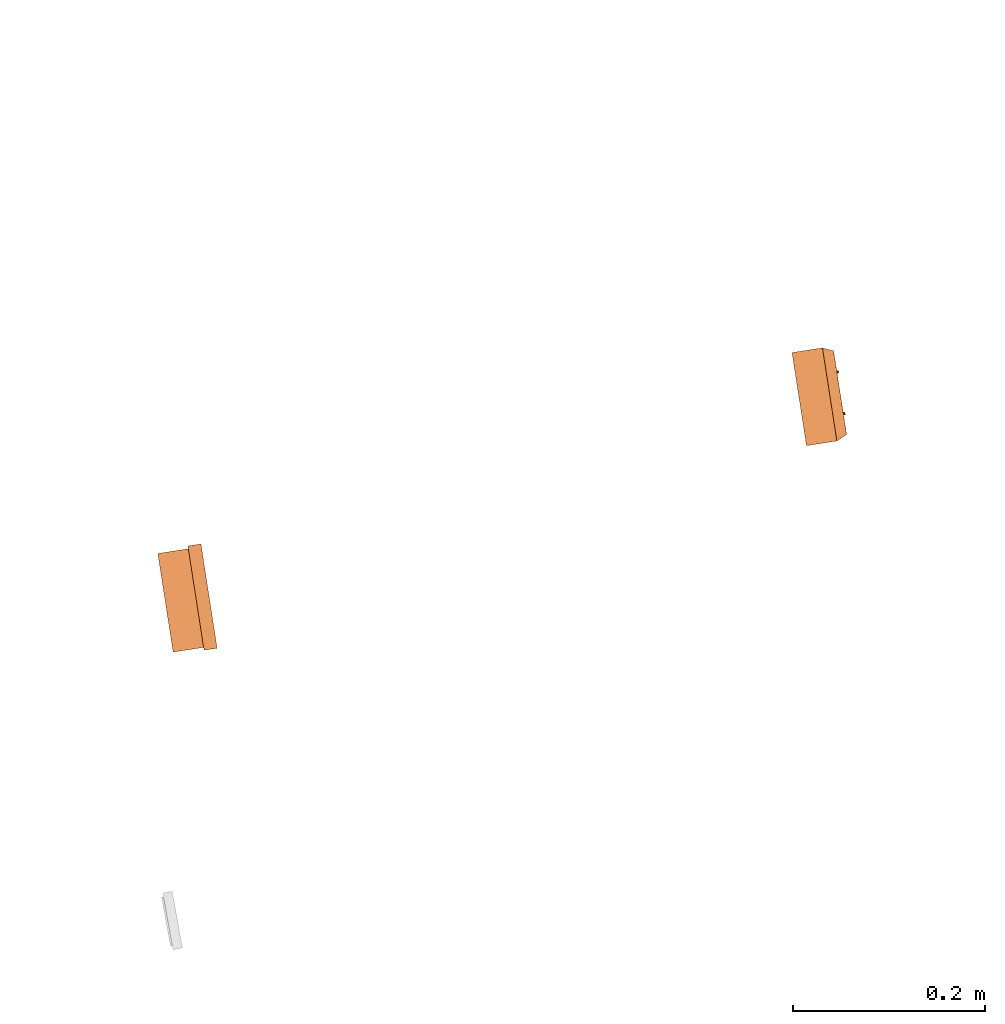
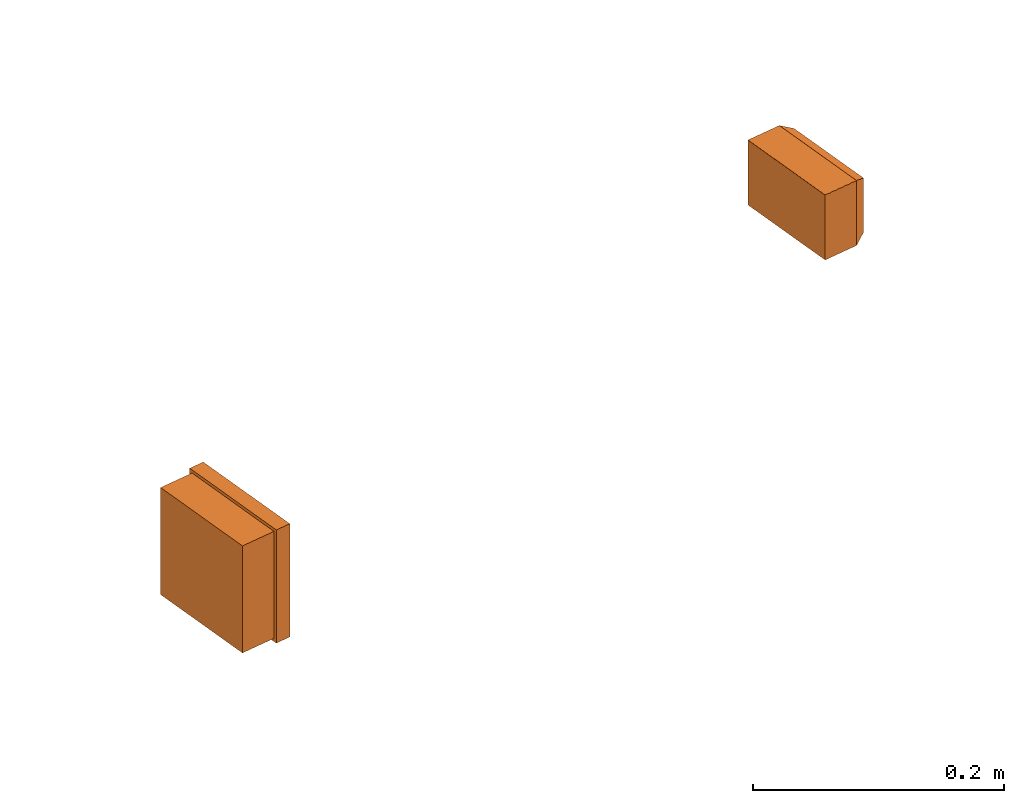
# One storey, part 24 of 33: 2 proxies.
"""IFC2X3 building model written with IfcOpenShell, lengths in millimetres."""

from ifc_helpers import new_model, entity, si_unit, converted_unit, derived_unit, direction, frame, frame_2d, origin, origin_with_axes, origin_2d_with_axis, place, context, subcontext, project, spatial, polyline, circle_curve, parameter, trimmed, segment, composite_curve, rectangle, circle, hollow_circle, outline, extrude, source, transform, mapped, material, type_object, element, save


model = new_model("IFC2X3")

# Units and contexts
plan_context = context("Plan", 3, precision=1e-05, world=origin_with_axes())
model_context = context("Model", 3, precision=0.01, world=origin(), true_north=direction((6.12323399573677e-17, 1.0)))
body_context = subcontext(model_context, "Body", "Model", "MODEL_VIEW")
ifc_project = project(units=[converted_unit("PLANEANGLEUNIT", "DEGREE", entity("IfcPositiveLengthMeasure", 0.0174532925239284), si_unit("PLANEANGLEUNIT", "RADIAN"), dimensions=[0, 0, 0, 0, 0, 0, 0]), si_unit("AREAUNIT", "SQUARE_METRE"), si_unit("LENGTHUNIT", "METRE", prefix="MILLI"), si_unit("MASSUNIT", "GRAM", prefix="KILO"), si_unit("POWERUNIT", "WATT"), si_unit("PRESSUREUNIT", "PASCAL", prefix="KILO"), si_unit("FORCEUNIT", "NEWTON", prefix="KILO"), si_unit("ELECTRICVOLTAGEUNIT", "VOLT"), si_unit("ELECTRICCURRENTUNIT", "AMPERE"), si_unit("THERMODYNAMICTEMPERATUREUNIT", "DEGREE_CELSIUS"), si_unit("TIMEUNIT", "SECOND"), si_unit("VOLUMEUNIT", "CUBIC_METRE"), derived_unit("LINEARVELOCITYUNIT", [(si_unit("LENGTHUNIT", "METRE"), 1), (si_unit("TIMEUNIT", "SECOND"), -1)]), derived_unit("VOLUMETRICFLOWRATEUNIT", [(si_unit("VOLUMEUNIT", "CUBIC_METRE"), 1), (si_unit("TIMEUNIT", "SECOND"), -1)]), derived_unit("THERMALTRANSMITTANCEUNIT", [(si_unit("POWERUNIT", "WATT"), 1), (si_unit("THERMODYNAMICTEMPERATUREUNIT", "KELVIN"), -1), (si_unit("AREAUNIT", "SQUARE_METRE"), -1)]), derived_unit("SOUNDPRESSUREUNIT", [(si_unit("PRESSUREUNIT", "PASCAL"), 1)])], contexts=[model_context, plan_context])

# Site, building, storey
site_placement = place(None, frame((-0.219946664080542, 0.12226179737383, 0.0), z_axis=(0.0, 0.0, 1.0), x_axis=(-0.160236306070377, 0.987078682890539, 0.0)))
site = spatial("IfcSite", under=ifc_project, at=site_placement, Name="Default", CompositionType="ELEMENT")
building_placement = place(site_placement, origin_with_axes())
building = spatial("IfcBuilding", under=site, at=building_placement, CompositionType="ELEMENT")
storey_placement = place(building_placement, frame((0.0, 0.0, 59000.0), z_axis=(0.0, 0.0, 1.0), x_axis=(1.0, 0.0, 0.0)))
storey = spatial("IfcBuildingStorey", under=building, at=storey_placement, Name="Nivå F", CompositionType="ELEMENT", Elevation=59000.0)

# Proxies
ifc_material = material(Name="<Unnamed>")
building_element_proxy_type_1 = type_object("IfcBuildingElementProxyType", Name="Dobbel stikk på vegg 2P+J hor PH:EARTHED-SOCKET-2(HOR)", PredefinedType="NOTDEFINED", material=ifc_material)
shared_shape_1 = source(origin(), body_context, "Body", "SweptSolid", [
    extrude(outline(composite_curve([segment(polyline([(-6.66666666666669, -6.66666666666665), (13.3333333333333, -6.66666666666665)]), True, "CONTINUOUS"), segment(trimmed(circle_curve(frame_2d((13.3333333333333, 13.3333333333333), x_axis=(0.0, -1.0)), 20.0), [parameter(270.0)], [parameter(5.08888749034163e-14)], True, "PARAMETER"), False, "CONTINUOUS"), segment(polyline([(-6.66666666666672, 13.3333333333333), (-6.66666666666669, -6.66666666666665)]), True, "CONTINUOUS")], self_intersect=False)), frame((35.3333333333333, 42.8999999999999, 13.3533333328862), z_axis=(0.0, 1.0, 0.0), x_axis=(0.0, 0.0, -1.0)), (0.0, 0.0, 1.0), 0.199999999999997),
    extrude(outline(composite_curve([segment(polyline([(-6.66666666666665, -6.66666666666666), (13.3333333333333, -6.66666666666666)]), True, "CONTINUOUS"), segment(trimmed(circle_curve(frame_2d((13.3333333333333, 13.3333333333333), x_axis=(-1.0, 0.0)), 20.0), [parameter(360.0)], [parameter(89.9999999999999)], True, "PARAMETER"), False, "CONTINUOUS"), segment(polyline([(-6.66666666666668, 13.3333333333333), (-6.66666666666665, -6.66666666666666)]), True, "CONTINUOUS")], self_intersect=False)), frame((35.3333333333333, 42.8999999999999, -13.3233333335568), z_axis=(0.0, 1.0, 0.0), x_axis=(-1.0, 0.0, 0.0)), (0.0, 0.0, 1.0), 0.199999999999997),
    extrude(outline(composite_curve([segment(polyline([(-6.66666666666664, -6.66666666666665), (13.3333333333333, -6.66666666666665)]), True, "CONTINUOUS"), segment(trimmed(circle_curve(frame_2d((13.3333333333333, 13.3333333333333), x_axis=(-1.0, 0.0)), 20.0), [parameter(0.0)], [parameter(89.9999999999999)], True, "PARAMETER"), False, "CONTINUOUS"), segment(polyline([(-6.66666666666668, 13.3333333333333), (-6.66666666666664, -6.66666666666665)]), True, "CONTINUOUS")], self_intersect=False)), frame((8.66666666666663, 42.8999999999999, 13.3433333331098), z_axis=(0.0, 1.0, 0.0), x_axis=(1.0, 0.0, 0.0)), (0.0, 0.0, 1.0), 0.199999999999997),
    extrude(outline(composite_curve([segment(polyline([(-6.66666666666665, -6.66666666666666), (13.3333333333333, -6.66666666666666)]), True, "CONTINUOUS"), segment(trimmed(circle_curve(frame_2d((13.3333333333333, 13.3333333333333), x_axis=(-1.0, 0.0)), 20.0), [parameter(360.0)], [parameter(89.9999999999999)], True, "PARAMETER"), False, "CONTINUOUS"), segment(polyline([(-6.66666666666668, 13.3333333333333), (-6.66666666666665, -6.66666666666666)]), True, "CONTINUOUS")], self_intersect=False)), frame((35.3333333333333, 42.8999999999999, -13.3433333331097), z_axis=(0.0, 1.0, 0.0), x_axis=(-1.0, 0.0, 0.0)), (0.0, 0.0, 1.0), 0.199999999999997),
    extrude(outline(composite_curve([segment(polyline([(-6.66666666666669, -6.66666666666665), (13.3333333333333, -6.66666666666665)]), True, "CONTINUOUS"), segment(trimmed(circle_curve(frame_2d((13.3333333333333, 13.3333333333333), x_axis=(0.0, -1.0)), 20.0), [parameter(270.0)], [parameter(5.08888749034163e-14)], True, "PARAMETER"), False, "CONTINUOUS"), segment(polyline([(-6.66666666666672, 13.3333333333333), (-6.66666666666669, -6.66666666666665)]), True, "CONTINUOUS")], self_intersect=False)), frame((35.3333333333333, 42.8999999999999, 13.3333333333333), z_axis=(0.0, 1.0, 0.0), x_axis=(0.0, 0.0, -1.0)), (0.0, 0.0, 1.0), 0.199999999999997),
    extrude(outline(composite_curve([segment(polyline([(-6.66666666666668, -6.66666666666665), (13.3333333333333, -6.66666666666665)]), True, "CONTINUOUS"), segment(trimmed(circle_curve(frame_2d((13.3333333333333, 13.3333333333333), x_axis=(0.0, -1.0)), 20.0), [parameter(270.0)], [parameter(0.0)], True, "PARAMETER"), False, "CONTINUOUS"), segment(polyline([(-6.66666666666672, 13.3333333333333), (-6.66666666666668, -6.66666666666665)]), True, "CONTINUOUS")], self_intersect=False)), frame((8.66666666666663, 42.8999999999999, -13.3333333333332), z_axis=(0.0, 1.0, 0.0), x_axis=(0.0, 0.0, 1.0)), (0.0, 0.0, 1.0), 0.199999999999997),
    extrude(outline(composite_curve([segment(polyline([(-6.66666666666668, -6.66666666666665), (13.3333333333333, -6.66666666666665)]), True, "CONTINUOUS"), segment(trimmed(circle_curve(frame_2d((13.3333333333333, 13.3333333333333), x_axis=(0.0, -1.0)), 20.0), [parameter(270.0)], [parameter(0.0)], True, "PARAMETER"), False, "CONTINUOUS"), segment(polyline([(-6.66666666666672, 13.3333333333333), (-6.66666666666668, -6.66666666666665)]), True, "CONTINUOUS")], self_intersect=False)), frame((-8.66666666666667, 42.8999999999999, 13.3533333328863), z_axis=(0.0, 1.0, 0.0), x_axis=(0.0, 0.0, -1.0)), (0.0, 0.0, 1.0), 0.199999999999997),
    extrude(outline(composite_curve([segment(polyline([(-6.66666666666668, -6.66666666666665), (13.3333333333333, -6.66666666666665)]), True, "CONTINUOUS"), segment(trimmed(circle_curve(frame_2d((13.3333333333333, 13.3333333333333), x_axis=(-1.0, 0.0)), 20.0), [parameter(0.0)], [parameter(90.0)], True, "PARAMETER"), False, "CONTINUOUS"), segment(polyline([(-6.66666666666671, 13.3333333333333), (-6.66666666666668, -6.66666666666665)]), True, "CONTINUOUS")], self_intersect=False)), frame((-8.66666666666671, 42.8999999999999, -13.3233333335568), z_axis=(0.0, 1.0, 0.0), x_axis=(-1.0, 0.0, 0.0)), (0.0, 0.0, 1.0), 0.199999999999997),
    extrude(outline(composite_curve([segment(polyline([(-6.66666666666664, -6.66666666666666), (13.3333333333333, -6.66666666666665)]), True, "CONTINUOUS"), segment(trimmed(circle_curve(frame_2d((13.3333333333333, 13.3333333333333), x_axis=(-1.0, 0.0)), 20.0), [parameter(360.0)], [parameter(89.9999999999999)], True, "PARAMETER"), False, "CONTINUOUS"), segment(polyline([(-6.66666666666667, 13.3333333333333), (-6.66666666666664, -6.66666666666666)]), True, "CONTINUOUS")], self_intersect=False)), frame((-35.3333333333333, 42.8999999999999, 13.3433333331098), z_axis=(0.0, 1.0, 0.0), x_axis=(1.0, 0.0, 0.0)), (0.0, 0.0, 1.0), 0.199999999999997),
    extrude(outline(composite_curve([segment(polyline([(-6.66666666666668, -6.66666666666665), (13.3333333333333, -6.66666666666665)]), True, "CONTINUOUS"), segment(trimmed(circle_curve(frame_2d((13.3333333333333, 13.3333333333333), x_axis=(-1.0, 0.0)), 20.0), [parameter(0.0)], [parameter(90.0)], True, "PARAMETER"), False, "CONTINUOUS"), segment(polyline([(-6.66666666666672, 13.3333333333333), (-6.66666666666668, -6.66666666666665)]), True, "CONTINUOUS")], self_intersect=False)), frame((-8.66666666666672, 42.8999999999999, -13.3433333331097), z_axis=(0.0, 1.0, 0.0), x_axis=(-1.0, 0.0, 0.0)), (0.0, 0.0, 1.0), 0.199999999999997),
    extrude(outline(composite_curve([segment(polyline([(-6.66666666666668, -6.66666666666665), (13.3333333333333, -6.66666666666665)]), True, "CONTINUOUS"), segment(trimmed(circle_curve(frame_2d((13.3333333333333, 13.3333333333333), x_axis=(0.0, -1.0)), 20.0), [parameter(270.0)], [parameter(0.0)], True, "PARAMETER"), False, "CONTINUOUS"), segment(polyline([(-6.66666666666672, 13.3333333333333), (-6.66666666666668, -6.66666666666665)]), True, "CONTINUOUS")], self_intersect=False)), frame((-8.66666666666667, 42.8999999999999, 13.3333333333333), z_axis=(0.0, 1.0, 0.0), x_axis=(0.0, 0.0, -1.0)), (0.0, 0.0, 1.0), 0.199999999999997),
    extrude(outline(composite_curve([segment(polyline([(-6.66666666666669, -6.66666666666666), (13.3333333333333, -6.66666666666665)]), True, "CONTINUOUS"), segment(trimmed(circle_curve(frame_2d((13.3333333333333, 13.3333333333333), x_axis=(0.0, -1.0)), 20.0), [parameter(270.0)], [parameter(5.08888749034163e-14)], True, "PARAMETER"), False, "CONTINUOUS"), segment(polyline([(-6.66666666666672, 13.3333333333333), (-6.66666666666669, -6.66666666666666)]), True, "CONTINUOUS")], self_intersect=False)), frame((-35.3333333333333, 42.8999999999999, -13.3333333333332), z_axis=(0.0, 1.0, 0.0), x_axis=(0.0, 0.0, 1.0)), (0.0, 0.0, 1.0), 0.199999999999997),
    extrude(rectangle(XDim=9.99999999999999, YDim=1.0, at=frame_2d((0.0, 2.1094237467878e-15), x_axis=(1.0, 0.0))), frame((22.0, 40.0, -17.6), z_axis=(0.0, 0.0, 1.0), x_axis=(0.0, -1.0, 0.0)), (0.0, 0.0, 1.0), 0.199999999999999),
    extrude(rectangle(XDim=21.5, YDim=1.0, at=frame_2d((0.0, 8.43769498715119e-15), x_axis=(1.0, 0.0))), frame((22.0, 32.25, -19.6), z_axis=(0.0, 0.0, 1.0), x_axis=(0.0, -1.0, 0.0)), (0.0, 0.0, 1.0), 0.200000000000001),
    extrude(rectangle(XDim=9.99999999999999, YDim=1.0, at=frame_2d((0.0, 2.1094237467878e-15), x_axis=(1.0, 0.0))), frame((22.0, 40.0, 17.4), z_axis=(0.0, 0.0, 1.0), x_axis=(0.0, -1.0, 0.0)), (0.0, 0.0, 1.0), 0.199999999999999),
    extrude(rectangle(XDim=21.5, YDim=1.0, at=frame_2d((0.0, 8.43769498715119e-15), x_axis=(1.0, 0.0))), frame((22.0, 32.25, 19.4), z_axis=(0.0, 0.0, 1.0), x_axis=(0.0, -1.0, 0.0)), (0.0, 0.0, 1.0), 0.200000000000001),
    extrude(rectangle(XDim=9.99999999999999, YDim=1.0, at=frame_2d((0.0, -2.1094237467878e-15), x_axis=(1.0, 0.0))), frame((-22.0, 40.0, -17.6), z_axis=(0.0, 0.0, 1.0), x_axis=(0.0, -1.0, 0.0)), (0.0, 0.0, 1.0), 0.199999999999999),
    extrude(rectangle(XDim=21.5, YDim=1.0, at=frame_2d((0.0, 8.43769498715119e-15), x_axis=(1.0, 0.0))), frame((-22.0, 32.25, -19.6), z_axis=(0.0, 0.0, 1.0), x_axis=(0.0, -1.0, 0.0)), (0.0, 0.0, 1.0), 0.200000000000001),
    extrude(rectangle(XDim=9.99999999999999, YDim=1.0, at=frame_2d((0.0, -2.1094237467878e-15), x_axis=(1.0, 0.0))), frame((-22.0, 40.0, 17.4), z_axis=(0.0, 0.0, 1.0), x_axis=(0.0, -1.0, 0.0)), (0.0, 0.0, 1.0), 0.199999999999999),
    extrude(rectangle(XDim=21.5, YDim=1.0, at=frame_2d((0.0, 8.43769498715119e-15), x_axis=(1.0, 0.0))), frame((-22.0, 32.25, 19.4), z_axis=(0.0, 0.0, 1.0), x_axis=(0.0, -1.0, 0.0)), (0.0, 0.0, 1.0), 0.200000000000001),
    extrude(rectangle(XDim=0.199999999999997, YDim=2.0, at=frame_2d((4.2257863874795e-15, 0.0), x_axis=(1.0, 0.0))), frame((43.0, 43.0, 0.0199999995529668), z_axis=(0.0, 0.0, 1.0), x_axis=(0.0, 1.0, 0.0)), (0.0, 0.0, 1.0), 20.0),
    extrude(rectangle(XDim=0.199999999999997, YDim=40.0, at=frame_2d((4.2257863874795e-15, 0.0), x_axis=(1.0, 0.0))), frame((22.0, 43.0, 20.0199999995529), z_axis=(0.0, 0.0, 1.0), x_axis=(0.0, 1.0, 0.0)), (0.0, 0.0, 1.0), 6.5),
    extrude(rectangle(XDim=0.199999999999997, YDim=2.0, at=frame_2d((4.2257863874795e-15, 0.0), x_axis=(1.0, 0.0))), frame((43.0, 43.0, -19.9900000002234), z_axis=(0.0, 0.0, 1.0), x_axis=(0.0, -1.0, 0.0)), (0.0, 0.0, 1.0), 20.0),
    extrude(rectangle(XDim=0.199999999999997, YDim=40.0, at=frame_2d((4.2257863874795e-15, 0.0), x_axis=(1.0, 0.0))), frame((22.0, 43.0, -26.4900000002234), z_axis=(0.0, 0.0, 1.0), x_axis=(0.0, -1.0, 0.0)), (0.0, 0.0, 1.0), 6.49999999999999),
    extrude(rectangle(XDim=0.199999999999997, YDim=2.0, at=frame_2d((4.2257863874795e-15, 0.0), x_axis=(1.0, 0.0))), frame((1.0, 43.0, 0.00999999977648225), z_axis=(0.0, 0.0, 1.0), x_axis=(0.0, -1.0, 0.0)), (0.0, 0.0, 1.0), 20.0),
    extrude(rectangle(XDim=0.199999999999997, YDim=2.0, at=frame_2d((4.2257863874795e-15, 0.0), x_axis=(1.0, 0.0))), frame((43.0, 43.0, -20.0099999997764), z_axis=(0.0, 0.0, 1.0), x_axis=(0.0, -1.0, 0.0)), (0.0, 0.0, 1.0), 20.0),
    extrude(rectangle(XDim=0.199999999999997, YDim=40.0, at=frame_2d((4.2257863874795e-15, 0.0), x_axis=(1.0, 0.0))), frame((22.0, 43.0, -26.5099999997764), z_axis=(0.0, 0.0, 1.0), x_axis=(0.0, -1.0, 0.0)), (0.0, 0.0, 1.0), 6.5),
    extrude(rectangle(XDim=0.199999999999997, YDim=2.0, at=frame_2d((4.2257863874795e-15, 0.0), x_axis=(1.0, 0.0))), frame((43.0, 43.0, 0.0), z_axis=(0.0, 0.0, 1.0), x_axis=(0.0, 1.0, 0.0)), (0.0, 0.0, 1.0), 20.0),
    extrude(rectangle(XDim=0.199999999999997, YDim=40.0, at=frame_2d((4.2257863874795e-15, 0.0), x_axis=(1.0, 0.0))), frame((22.0, 43.0, 20.0), z_axis=(0.0, 0.0, 1.0), x_axis=(0.0, 1.0, 0.0)), (0.0, 0.0, 1.0), 6.5),
    extrude(rectangle(XDim=0.199999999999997, YDim=2.0, at=frame_2d((4.2257863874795e-15, 0.0), x_axis=(1.0, 0.0))), frame((1.0, 43.0, -20.0), z_axis=(0.0, 0.0, 1.0), x_axis=(0.0, 1.0, 0.0)), (0.0, 0.0, 1.0), 20.0),
    extrude(rectangle(XDim=0.199999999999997, YDim=2.0, at=frame_2d((4.2257863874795e-15, 0.0), x_axis=(1.0, 0.0))), frame((-1.0, 43.0, 0.0199999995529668), z_axis=(0.0, 0.0, 1.0), x_axis=(0.0, 1.0, 0.0)), (0.0, 0.0, 1.0), 20.0),
    extrude(rectangle(XDim=0.199999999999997, YDim=40.0, at=frame_2d((4.2257863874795e-15, 0.0), x_axis=(1.0, 0.0))), frame((-22.0, 43.0, 20.0199999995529), z_axis=(0.0, 0.0, 1.0), x_axis=(0.0, 1.0, 0.0)), (0.0, 0.0, 1.0), 6.5),
    extrude(rectangle(XDim=0.199999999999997, YDim=2.0, at=frame_2d((4.2257863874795e-15, 0.0), x_axis=(1.0, 0.0))), frame((-1.0, 43.0, -19.9900000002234), z_axis=(0.0, 0.0, 1.0), x_axis=(0.0, -1.0, 0.0)), (0.0, 0.0, 1.0), 20.0),
    extrude(rectangle(XDim=0.199999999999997, YDim=40.0, at=frame_2d((4.2257863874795e-15, 0.0), x_axis=(1.0, 0.0))), frame((-22.0, 43.0, -26.4900000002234), z_axis=(0.0, 0.0, 1.0), x_axis=(0.0, -1.0, 0.0)), (0.0, 0.0, 1.0), 6.49999999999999),
    extrude(rectangle(XDim=0.199999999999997, YDim=1.99999999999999, at=frame_2d((4.2257863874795e-15, 4.2188474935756e-15), x_axis=(1.0, 0.0))), frame((-43.0, 43.0, 0.00999999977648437), z_axis=(0.0, 0.0, 1.0), x_axis=(0.0, -1.0, 0.0)), (0.0, 0.0, 1.0), 20.0),
    extrude(rectangle(XDim=0.199999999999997, YDim=2.0, at=frame_2d((4.2257863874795e-15, 0.0), x_axis=(1.0, 0.0))), frame((-1.0, 43.0, -20.0099999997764), z_axis=(0.0, 0.0, 1.0), x_axis=(0.0, -1.0, 0.0)), (0.0, 0.0, 1.0), 20.0),
    extrude(rectangle(XDim=0.199999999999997, YDim=40.0, at=frame_2d((4.2257863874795e-15, 0.0), x_axis=(1.0, 0.0))), frame((-22.0, 43.0, -26.5099999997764), z_axis=(0.0, 0.0, 1.0), x_axis=(0.0, -1.0, 0.0)), (0.0, 0.0, 1.0), 6.5),
    extrude(rectangle(XDim=0.199999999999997, YDim=2.0, at=frame_2d((4.2257863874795e-15, 0.0), x_axis=(1.0, 0.0))), frame((-1.0, 43.0, 0.0), z_axis=(0.0, 0.0, 1.0), x_axis=(0.0, 1.0, 0.0)), (0.0, 0.0, 1.0), 20.0),
    extrude(rectangle(XDim=0.199999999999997, YDim=40.0, at=frame_2d((4.2257863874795e-15, 0.0), x_axis=(1.0, 0.0))), frame((-22.0, 43.0, 20.0), z_axis=(0.0, 0.0, 1.0), x_axis=(0.0, 1.0, 0.0)), (0.0, 0.0, 1.0), 6.5),
    extrude(rectangle(XDim=0.199999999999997, YDim=1.99999999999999, at=frame_2d((4.2257863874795e-15, -4.2188474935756e-15), x_axis=(1.0, 0.0))), frame((-43.0, 43.0, -20.0), z_axis=(0.0, 0.0, 1.0), x_axis=(0.0, 1.0, 0.0)), (0.0, 0.0, 1.0), 20.0),
    extrude(rectangle(XDim=0.199999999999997, YDim=2.0, at=frame_2d((4.2257863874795e-15, 0.0), x_axis=(1.0, 0.0))), frame((-1.0, 43.0, -26.5), z_axis=(0.0, 0.0, 1.0), x_axis=(0.0, 1.0, 0.0)), (0.0, 0.0, 1.0), 6.49999999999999),
    extrude(rectangle(XDim=0.199999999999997, YDim=1.99999999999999, at=frame_2d((4.2257863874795e-15, 4.2188474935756e-15), x_axis=(1.0, 0.0))), frame((-43.0, 43.0, -26.5), z_axis=(0.0, 0.0, 1.0), x_axis=(0.0, 1.0, 0.0)), (0.0, 0.0, 1.0), 6.49999999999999),
    extrude(rectangle(XDim=0.199999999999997, YDim=2.0, at=frame_2d((4.2257863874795e-15, 0.0), x_axis=(1.0, 0.0))), frame((1.0, 43.0, -26.5), z_axis=(0.0, 0.0, 1.0), x_axis=(0.0, 1.0, 0.0)), (0.0, 0.0, 1.0), 6.49999999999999),
    extrude(rectangle(XDim=0.199999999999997, YDim=1.99999999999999, at=frame_2d((4.2257863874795e-15, -4.2188474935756e-15), x_axis=(1.0, 0.0))), frame((43.0, 43.0, -26.5), z_axis=(0.0, 0.0, 1.0), x_axis=(0.0, 1.0, 0.0)), (0.0, 0.0, 1.0), 6.49999999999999),
    extrude(outline(polyline([(-24.3180677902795, -42.966633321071), (-11.2413709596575, -42.9666333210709), (22.4062700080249, 38.3465652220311), (13.1531687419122, 47.5867014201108), (-24.3180677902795, -42.966633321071)])), frame((0.0, 37.5413802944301, -29.0910366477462), z_axis=(0.0, -0.413802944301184, 0.910366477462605), x_axis=(-0.382359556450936, 0.84119102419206, 0.382359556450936)), (0.0, 0.0, 1.0), 0.199999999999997),
    extrude(outline(polyline([(-31.5, -6.04152298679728), (31.5, -6.04152298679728), (26.5, 6.04152298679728), (-26.5, 6.04152298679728), (-31.5, -6.04152298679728)])), frame((-46.5910366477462, 37.5413802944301, 0.0), z_axis=(0.910366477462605, -0.413802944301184, 0.0), x_axis=(0.0, 0.0, -1.0)), (0.0, 0.0, 1.0), 0.200000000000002),
    extrude(outline(polyline([(-31.5, -6.04152298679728), (31.5, -6.04152298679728), (26.5, 6.04152298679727), (-26.5, 6.04152298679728), (-31.5, -6.04152298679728)])), frame((46.4089633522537, 37.4586197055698, 0.0), z_axis=(0.910366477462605, 0.413802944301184, 0.0), x_axis=(0.0, 0.0, -1.0)), (0.0, 0.0, 1.0), 0.199999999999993),
    extrude(rectangle(XDim=32.0, YDim=97.9999999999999, at=frame_2d((1.77635683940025e-15, 0.0), x_axis=(1.0, 0.0))), frame((0.0, 16.0, -31.6), z_axis=(0.0, 0.0, 1.0), x_axis=(0.0, -1.0, 0.0)), (0.0, 0.0, 1.0), 0.200000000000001),
    extrude(rectangle(XDim=0.199999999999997, YDim=2.0, at=frame_2d((4.2257863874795e-15, 0.0), x_axis=(1.0, 0.0))), frame((-1.0, 43.0, 20.0), z_axis=(0.0, 0.0, 1.0), x_axis=(0.0, 1.0, 0.0)), (0.0, 0.0, 1.0), 6.49999999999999),
    extrude(rectangle(XDim=0.199999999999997, YDim=1.99999999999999, at=frame_2d((4.2257863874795e-15, 4.2188474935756e-15), x_axis=(1.0, 0.0))), frame((-43.0, 43.0, 20.0), z_axis=(0.0, 0.0, 1.0), x_axis=(0.0, 1.0, 0.0)), (0.0, 0.0, 1.0), 6.49999999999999),
    extrude(outline(polyline([(-44.0, -6.04152298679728), (44.0, -6.04152298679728), (49.0, 6.04152298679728), (-49.0, 6.04152298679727), (-44.0, -6.04152298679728)])), frame((0.0, 37.4586197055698, 28.9089633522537), z_axis=(0.0, 0.413802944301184, 0.910366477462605), x_axis=(-1.0, 0.0, 0.0)), (0.0, 0.0, 1.0), 0.200000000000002),
    extrude(rectangle(XDim=0.199999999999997, YDim=2.0, at=frame_2d((4.2257863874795e-15, 0.0), x_axis=(1.0, 0.0))), frame((1.0, 43.0, 20.0), z_axis=(0.0, 0.0, 1.0), x_axis=(0.0, 1.0, 0.0)), (0.0, 0.0, 1.0), 6.49999999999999),
    extrude(rectangle(XDim=0.199999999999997, YDim=1.99999999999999, at=frame_2d((4.2257863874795e-15, -4.2188474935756e-15), x_axis=(1.0, 0.0))), frame((43.0, 43.0, 20.0), z_axis=(0.0, 0.0, 1.0), x_axis=(0.0, 1.0, 0.0)), (0.0, 0.0, 1.0), 6.49999999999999),
    extrude(rectangle(XDim=32.0, YDim=97.9999999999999, at=frame_2d((1.77635683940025e-15, 0.0), x_axis=(1.0, 0.0))), frame((0.0, 16.0, 31.4), z_axis=(0.0, 0.0, 1.0), x_axis=(0.0, -1.0, 0.0)), (0.0, 0.0, 1.0), 0.200000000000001),
    extrude(rectangle(XDim=0.199999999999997, YDim=32.0, at=frame_2d((-4.2257863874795e-15, 0.0), x_axis=(1.0, 0.0))), frame((49.0, 16.0, -31.5)), (0.0, 0.0, 1.0), 62.9999999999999),
    extrude(rectangle(XDim=0.199999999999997, YDim=32.0, at=frame_2d((-4.2257863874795e-15, 0.0), x_axis=(1.0, 0.0))), frame((-49.0, 16.0, -31.5)), (0.0, 0.0, 1.0), 62.9999999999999),
    extrude(rectangle(XDim=0.2, YDim=97.9999999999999, at=origin_2d_with_axis()), frame((0.0, 0.0, -31.5), z_axis=(0.0, 0.0, 1.0), x_axis=(0.0, 1.0, 0.0)), (0.0, 0.0, 1.0), 62.9999999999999),
    extrude(circle(Radius=2.5, at=frame_2d((0.0, -4.22994972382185e-15), x_axis=(1.0, 0.0))), frame((32.0, 21.450000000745, 0.0), z_axis=(0.0, 1.0, 0.0), x_axis=(0.0, 0.0, 1.0)), (0.0, 0.0, 1.0), 0.200000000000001),
    extrude(circle(Radius=2.5, at=frame_2d((0.0, -4.22994972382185e-15), x_axis=(1.0, 0.0))), frame((12.0, 21.450000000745, 0.0), z_axis=(0.0, 1.0, 0.0), x_axis=(0.0, 0.0, 1.0)), (0.0, 0.0, 1.0), 0.200000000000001),
    extrude(circle(Radius=2.5, at=frame_2d((0.0, -4.22994972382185e-15), x_axis=(1.0, 0.0))), frame((-12.0, 21.450000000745, 0.0), z_axis=(0.0, 1.0, 0.0), x_axis=(0.0, 0.0, 1.0)), (0.0, 0.0, 1.0), 0.200000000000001),
    extrude(circle(Radius=2.5, at=frame_2d((0.0, -4.22994972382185e-15), x_axis=(1.0, 0.0))), frame((-32.0, 21.450000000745, 0.0), z_axis=(0.0, 1.0, 0.0), x_axis=(0.0, 0.0, 1.0)), (0.0, 0.0, 1.0), 0.200000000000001),
    extrude(circle(Radius=20.0, at=frame_2d((0.0, -2.96096480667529e-14), x_axis=(1.0, 0.0))), frame((22.0, 21.4, 0.0), z_axis=(0.0, 1.0, 0.0), x_axis=(0.0, 0.0, 1.0)), (0.0, 0.0, 1.0), 0.200000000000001),
    extrude(circle(Radius=20.0, at=frame_2d((0.0, -2.96096480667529e-14), x_axis=(1.0, 0.0))), frame((-22.0, 21.4, 0.0), z_axis=(0.0, 1.0, 0.0), x_axis=(0.0, 0.0, 1.0)), (0.0, 0.0, 1.0), 0.200000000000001),
    extrude(outline(composite_curve([segment(trimmed(circle_curve(frame_2d((-0.800000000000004, 0.800000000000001), x_axis=(1.0, 0.0)), 2.0), [parameter(270.0)], [parameter(0.0)], True, "PARAMETER"), True, "CONTINUOUS"), segment(polyline([(1.2, 0.8), (0.399999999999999, 0.8)]), True, "CONTINUOUS"), segment(trimmed(circle_curve(frame_2d((-0.800000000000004, 0.799999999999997), x_axis=(0.0, -1.0)), 1.2), [parameter(0.0)], [parameter(89.9999999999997)], True, "PARAMETER"), False, "CONTINUOUS"), segment(polyline([(-0.799999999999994, -0.400000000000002), (-0.799999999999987, -1.2)]), True, "CONTINUOUS")], self_intersect=False)), frame((20.5, 43.7999999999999, -18.3), z_axis=(1.0, 0.0, 0.0), x_axis=(0.0, 1.0, 0.0)), (0.0, 0.0, 1.0), 2.0),
    extrude(outline(composite_curve([segment(polyline([(-1.2, -0.800000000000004), (-0.399999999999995, -0.800000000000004)]), True, "CONTINUOUS"), segment(trimmed(circle_curve(frame_2d((0.800000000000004, -0.800000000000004), x_axis=(-1.0, 0.0)), 1.2), [parameter(270.0)], [parameter(0.0)], True, "PARAMETER"), False, "CONTINUOUS"), segment(polyline([(0.799999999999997, 0.399999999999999), (0.79999999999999, 1.2)]), True, "CONTINUOUS"), segment(trimmed(circle_curve(frame_2d((0.800000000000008, -0.800000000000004), x_axis=(0.0, 1.0)), 2.0), [parameter(0.0)], [parameter(89.9999999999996)], True, "PARAMETER"), True, "CONTINUOUS")], self_intersect=False)), frame((21.5, 43.8, 18.3), z_axis=(1.0, 0.0, 0.0), x_axis=(0.0, 0.0, -1.0)), (0.0, 0.0, 1.0), 2.0),
    extrude(outline(composite_curve([segment(trimmed(circle_curve(frame_2d((-0.800000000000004, 0.800000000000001), x_axis=(1.0, 0.0)), 2.0), [parameter(270.0)], [parameter(0.0)], True, "PARAMETER"), True, "CONTINUOUS"), segment(polyline([(1.2, 0.8), (0.399999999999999, 0.8)]), True, "CONTINUOUS"), segment(trimmed(circle_curve(frame_2d((-0.800000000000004, 0.799999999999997), x_axis=(0.0, -1.0)), 1.2), [parameter(0.0)], [parameter(89.9999999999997)], True, "PARAMETER"), False, "CONTINUOUS"), segment(polyline([(-0.799999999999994, -0.400000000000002), (-0.799999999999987, -1.2)]), True, "CONTINUOUS")], self_intersect=False)), frame((-23.5, 43.7999999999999, -18.3), z_axis=(1.0, 0.0, 0.0), x_axis=(0.0, 1.0, 0.0)), (0.0, 0.0, 1.0), 2.0),
    extrude(outline(composite_curve([segment(polyline([(-1.2, -0.800000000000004), (-0.399999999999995, -0.800000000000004)]), True, "CONTINUOUS"), segment(trimmed(circle_curve(frame_2d((0.800000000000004, -0.800000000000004), x_axis=(-1.0, 0.0)), 1.2), [parameter(270.0)], [parameter(0.0)], True, "PARAMETER"), False, "CONTINUOUS"), segment(polyline([(0.799999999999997, 0.399999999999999), (0.79999999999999, 1.2)]), True, "CONTINUOUS"), segment(trimmed(circle_curve(frame_2d((0.800000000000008, -0.800000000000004), x_axis=(0.0, 1.0)), 2.0), [parameter(0.0)], [parameter(89.9999999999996)], True, "PARAMETER"), True, "CONTINUOUS")], self_intersect=False)), frame((-22.5, 43.8, 18.3), z_axis=(1.0, 0.0, 0.0), x_axis=(0.0, 0.0, -1.0)), (0.0, 0.0, 1.0), 2.0),
    extrude(hollow_circle(Radius=20.0, WallThickness=0.199999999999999, at=frame_2d((0.0, -2.96096480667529e-14), x_axis=(1.0, 0.0))), frame((22.0, 21.5, 0.0), z_axis=(0.0, 1.0, 0.0), x_axis=(0.0, 0.0, 1.0)), (0.0, 0.0, 1.0), 21.5),
    extrude(hollow_circle(Radius=20.0, WallThickness=0.199999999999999, at=frame_2d((0.0, -2.96096480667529e-14), x_axis=(1.0, 0.0))), frame((-22.0, 21.5, 0.0), z_axis=(0.0, 1.0, 0.0), x_axis=(0.0, 0.0, 1.0)), (0.0, 0.0, 1.0), 21.5),
])
proxy_1_placement = place(storey_placement, frame((780261.312625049, -503679.580496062, 2000.0), z_axis=(0.0, 0.0, 1.0), x_axis=(-0.999975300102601, 0.00702845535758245, 0.0)))
element("IfcBuildingElementProxy", 1, at=proxy_1_placement, inside=storey, type_object=building_element_proxy_type_1, material=ifc_material, Name="Dobbel stikk på vegg 2P+J hor PH:EARTHED-SOCKET-2(HOR)", ObjectType="Dobbel stikk på vegg 2P+J hor PH:EARTHED-SOCKET-2(HOR)", context=body_context, shape_type="MappedRepresentation", body=[
    mapped(shared_shape_1, transform((0.0, 0.0, 0.0), scale=1.0)),
])
building_element_proxy_type_2 = type_object("IfcBuildingElementProxyType", Name="1612510-0001:Junction box1", PredefinedType="NOTDEFINED", material=ifc_material)
shared_shape_2 = source(origin(), body_context, "Body", "SweptSolid", [
    extrude(rectangle(XDim=110.0, YDim=13.8000001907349, at=frame_2d((0.0, 2.22044604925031e-15), x_axis=(1.0, 0.0))), frame((0.0, 39.1000008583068, -55.0)), (0.0, 0.0, 1.0), 110.0),
    extrude(rectangle(XDim=104.0, YDim=32.2000007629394, at=origin_2d_with_axis()), frame((0.0, 16.1000003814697, -52.0)), (0.0, 0.0, 1.0), 104.0),
])
proxy_2_placement = place(storey_placement, frame((780157.67395054, -502993.842774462, 2000.0), z_axis=(0.0, 0.0, 1.0), x_axis=(-0.999975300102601, 0.00702845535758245, 0.0)))
element("IfcBuildingElementProxy", 2, at=proxy_2_placement, inside=storey, type_object=building_element_proxy_type_2, material=ifc_material, Name="1612510-0001:Junction box1", ObjectType="1612510-0001:Junction box1", context=body_context, shape_type="MappedRepresentation", body=[
    mapped(shared_shape_2, transform((0.0, 0.0, 0.0), scale=1.0)),
])

save(model, "model.ifc")
